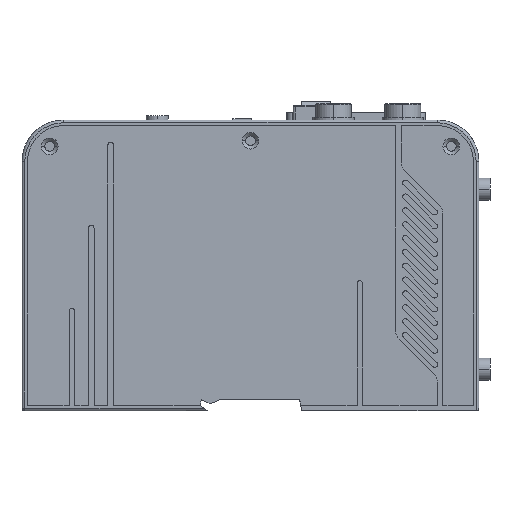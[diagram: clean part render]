
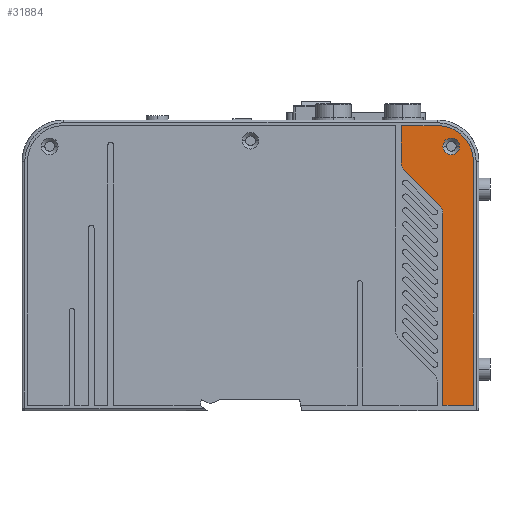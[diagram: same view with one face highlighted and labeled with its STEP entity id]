
A CAD part, left-side view. The second image highlights one B-rep face of the part: STEP entity #31884.
In plain terms, the highlighted planar face has unit normal (-1, 0, 0).
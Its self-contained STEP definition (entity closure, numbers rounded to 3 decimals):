
#3016=DIRECTION('',(0.,0.,1.));
#3017=VECTOR('',#3016,69.343);
#3018=CARTESIAN_POINT('',(-49.5,-69.5,2.));
#3019=LINE('',#3018,#3017);
#3020=DIRECTION('',(0.,0.707,0.707));
#3021=VECTOR('',#3020,17.899);
#3022=CARTESIAN_POINT('',(-49.5,-68.328,74.172));
#3023=LINE('',#3022,#3021);
#3024=CARTESIAN_POINT('',(-49.5,-58.5,89.657));
#3025=DIRECTION('',(-1.,0.,0.));
#3026=DIRECTION('',(0.,1.,0.));
#3027=AXIS2_PLACEMENT_3D('',#3024,#3025,#3026);
#3029=DIRECTION('',(0.,0.,1.));
#3030=VECTOR('',#3029,13.343);
#3031=CARTESIAN_POINT('',(-49.5,-54.5,89.657));
#3032=LINE('',#3031,#3030);
#3033=DIRECTION('',(0.,-1.,0.));
#3034=VECTOR('',#3033,13.);
#3035=CARTESIAN_POINT('',(-49.5,-54.5,103.));
#3036=LINE('',#3035,#3034);
#3037=CARTESIAN_POINT('',(-49.5,-67.5,90.));
#3038=DIRECTION('',(1.,0.,0.));
#3039=DIRECTION('',(0.,0.,1.));
#3040=AXIS2_PLACEMENT_3D('',#3037,#3038,#3039);
#3042=DIRECTION('',(0.,0.,-1.));
#3043=VECTOR('',#3042,88.);
#3044=CARTESIAN_POINT('',(-49.5,-80.5,90.));
#3045=LINE('',#3044,#3043);
#3046=DIRECTION('',(0.,1.,0.));
#3047=VECTOR('',#3046,11.);
#3048=CARTESIAN_POINT('',(-49.5,-80.5,2.));
#3049=LINE('',#3048,#3047);
#3060=CARTESIAN_POINT('',(-49.5,-72.5,95.5));
#3061=DIRECTION('',(-1.,0.,0.));
#3062=DIRECTION('',(0.,1.,0.));
#3063=AXIS2_PLACEMENT_3D('',#3060,#3061,#3062);
#3065=CARTESIAN_POINT('',(-49.5,-72.5,95.5));
#3066=DIRECTION('',(-1.,0.,0.));
#3067=DIRECTION('',(0.,-1.,0.));
#3068=AXIS2_PLACEMENT_3D('',#3065,#3066,#3067);
#19974=CARTESIAN_POINT('',(-49.5,-65.5,71.343));
#19975=DIRECTION('',(1.,0.,0.));
#19976=DIRECTION('',(0.,-0.707,0.707));
#19977=AXIS2_PLACEMENT_3D('',#19974,#19975,#19976);
#20894=CARTESIAN_POINT('',(-49.5,-67.5,103.));
#20895=CARTESIAN_POINT('',(-49.5,-80.5,90.));
#20896=VERTEX_POINT('',#20894);
#20897=VERTEX_POINT('',#20895);
#20898=CARTESIAN_POINT('',(-49.5,-80.5,2.));
#20899=VERTEX_POINT('',#20898);
#20900=CARTESIAN_POINT('',(-49.5,-69.5,2.));
#20901=VERTEX_POINT('',#20900);
#20902=CARTESIAN_POINT('',(-49.5,-54.5,103.));
#20903=VERTEX_POINT('',#20902);
#21750=CARTESIAN_POINT('',(-49.5,-54.5,89.657));
#21752=VERTEX_POINT('',#21750);
#21754=CARTESIAN_POINT('',(-49.5,-55.672,86.828));
#21755=VERTEX_POINT('',#21754);
#21783=CARTESIAN_POINT('',(-49.5,-69.5,71.343));
#21785=VERTEX_POINT('',#21783);
#21788=CARTESIAN_POINT('',(-49.5,-68.328,74.172));
#21789=VERTEX_POINT('',#21788);
#21850=CARTESIAN_POINT('',(-49.5,-69.5,95.5));
#21851=CARTESIAN_POINT('',(-49.5,-75.5,95.5));
#21852=VERTEX_POINT('',#21850);
#21853=VERTEX_POINT('',#21851);
#31853=CARTESIAN_POINT('',(-49.5,0.,0.));
#31854=DIRECTION('',(1.,0.,0.));
#31855=DIRECTION('',(0.,0.,-1.));
#31856=AXIS2_PLACEMENT_3D('',#31853,#31854,#31855);
#31857=PLANE('',#31856);
#31859=ORIENTED_EDGE('',*,*,#31858,.T.);
#31861=ORIENTED_EDGE('',*,*,#31860,.F.);
#31863=ORIENTED_EDGE('',*,*,#31862,.T.);
#31865=ORIENTED_EDGE('',*,*,#31864,.F.);
#31867=ORIENTED_EDGE('',*,*,#31866,.T.);
#31869=ORIENTED_EDGE('',*,*,#31868,.T.);
#31871=ORIENTED_EDGE('',*,*,#31870,.T.);
#31873=ORIENTED_EDGE('',*,*,#31872,.T.);
#31875=ORIENTED_EDGE('',*,*,#31874,.T.);
#31876=EDGE_LOOP('',(#31859,#31861,#31863,#31865,#31867,#31869,#31871,#31873,
#31875));
#31877=FACE_OUTER_BOUND('',#31876,.F.);
#31879=ORIENTED_EDGE('',*,*,#31878,.T.);
#31881=ORIENTED_EDGE('',*,*,#31880,.T.);
#31882=EDGE_LOOP('',(#31879,#31881));
#31883=FACE_BOUND('',#31882,.F.);
#3028=CIRCLE('',#3027,4.);
#3041=CIRCLE('',#3040,13.);
#3064=CIRCLE('',#3063,3.);
#3069=CIRCLE('',#3068,3.);
#19978=CIRCLE('',#19977,4.);
#31858=EDGE_CURVE('',#20901,#21785,#3019,.T.);
#31860=EDGE_CURVE('',#21789,#21785,#19978,.T.);
#31862=EDGE_CURVE('',#21789,#21755,#3023,.T.);
#31864=EDGE_CURVE('',#21752,#21755,#3028,.T.);
#31866=EDGE_CURVE('',#21752,#20903,#3032,.T.);
#31868=EDGE_CURVE('',#20903,#20896,#3036,.T.);
#31870=EDGE_CURVE('',#20896,#20897,#3041,.T.);
#31872=EDGE_CURVE('',#20897,#20899,#3045,.T.);
#31874=EDGE_CURVE('',#20899,#20901,#3049,.T.);
#31878=EDGE_CURVE('',#21852,#21853,#3064,.T.);
#31880=EDGE_CURVE('',#21853,#21852,#3069,.T.);
#31884=ADVANCED_FACE('',(#31877,#31883),#31857,.F.);
